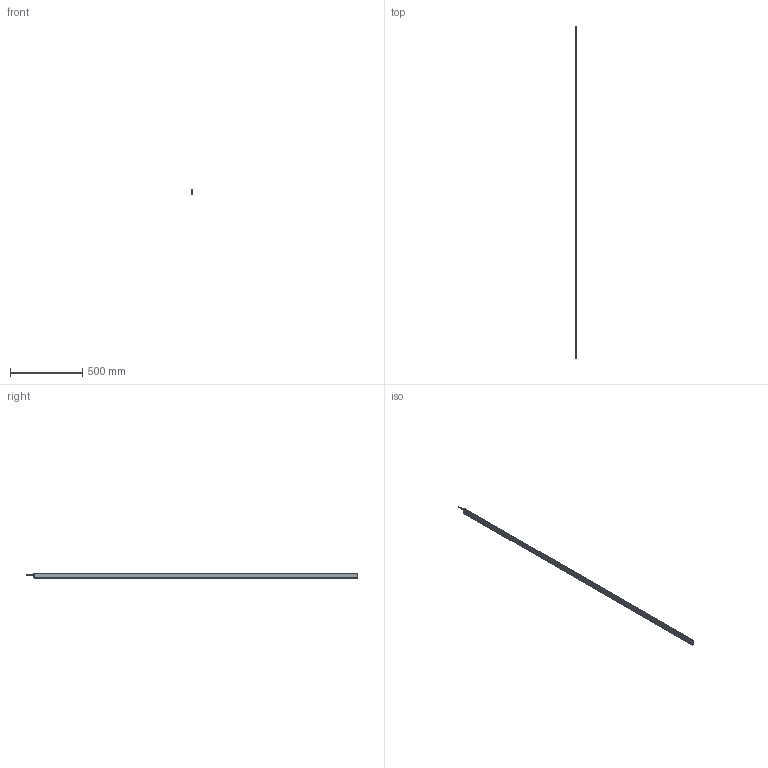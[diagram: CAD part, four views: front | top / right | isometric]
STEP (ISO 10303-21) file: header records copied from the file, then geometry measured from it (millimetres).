
FILE_DESCRIPTION (( 'STEP AP214' ), '1' );
FILE_NAME ('ILG-L-K2-2250mm.STEP', '2017-07-11T08:35:27', ( '' ), ( '' ), 'SwSTEP 2.0', 'SolidWorks 2016', '' );
FILE_SCHEMA (( 'AUTOMOTIVE_DESIGN' ));
Length unit declared in the file: millimetre
Products named in the file (1): ILG-L-K2-2250mm
Bounding box: 9 x 2304.5 x 40.71 mm (x, y, z)
Surface area: 443800.9 mm2 (no closed solid volume)
Topology: 0 solids, 13 shells, 681 faces, 1786 edges, 1135 vertices
Faces by surface type: cylinder 288, plane 255, cone 90, bspline 32, torus 16
Entity records: 30628 total; most frequent: CARTESIAN_POINT 6489, ORIENTED_EDGE 3525, DIRECTION 3406, EDGE_CURVE 1770, AXIS2_PLACEMENT_3D 1301, VERTEX_POINT 1135, LINE 804, VECTOR 804
